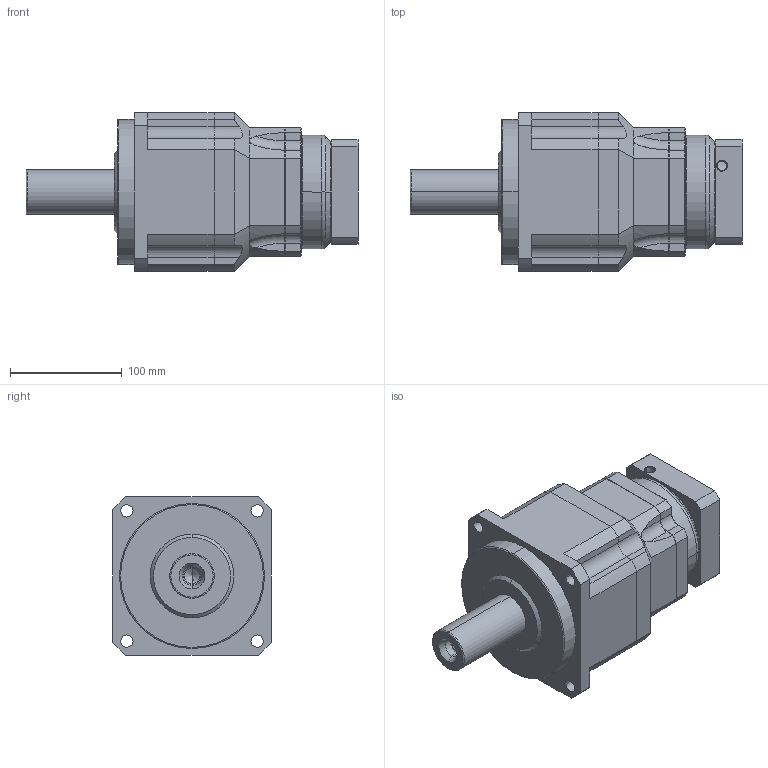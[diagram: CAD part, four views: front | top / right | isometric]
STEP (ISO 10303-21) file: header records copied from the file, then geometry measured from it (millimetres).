
FILE_DESCRIPTION((''),'2;1');
FILE_NAME('AB1422-P040340A002_ASM','2021-10-21T',('Administrator'),(''),'PRO/ENGINEER BY PARAMETRIC TECHNOLOGY CORPORATION, 2015240','PRO/ENGINEER BY PARAMETRIC TECHNOLOGY CORPORATION, 2015240','');
FILE_SCHEMA(('CONFIG_CONTROL_DESIGN'));
Length unit declared in the file: millimetre
Products named in the file (7): P1301400001_D; AB1422-1; AB142; AB-INPUTSHAFT-4; AB1422_ASM; P040340A002-0002; AB1422-P040340A002_ASM
Assembly tree (6 placements, depth 3):
  AB1422-P040340A002_ASM
    AB1422_ASM
      P1301400001_D
      AB1422-1
      AB142
      AB-INPUTSHAFT-4
    P040340A002-0002
Bounding box: 297.5 x 142 x 142 mm (x, y, z)
Volume: 2971856.1 mm3; surface area: 248808.7 mm2
Topology: 5 solids, 11 shells, 318 faces, 791 edges, 501 vertices
Faces by surface type: cylinder 150, plane 108, cone 30, torus 26, bspline 4
Entity records: 10237 total; most frequent: CARTESIAN_POINT 2250, DIRECTION 1759, ORIENTED_EDGE 1552, EDGE_CURVE 789, AXIS2_PLACEMENT_3D 706, VERTEX_POINT 501, EDGE_LOOP 374, CIRCLE 371
